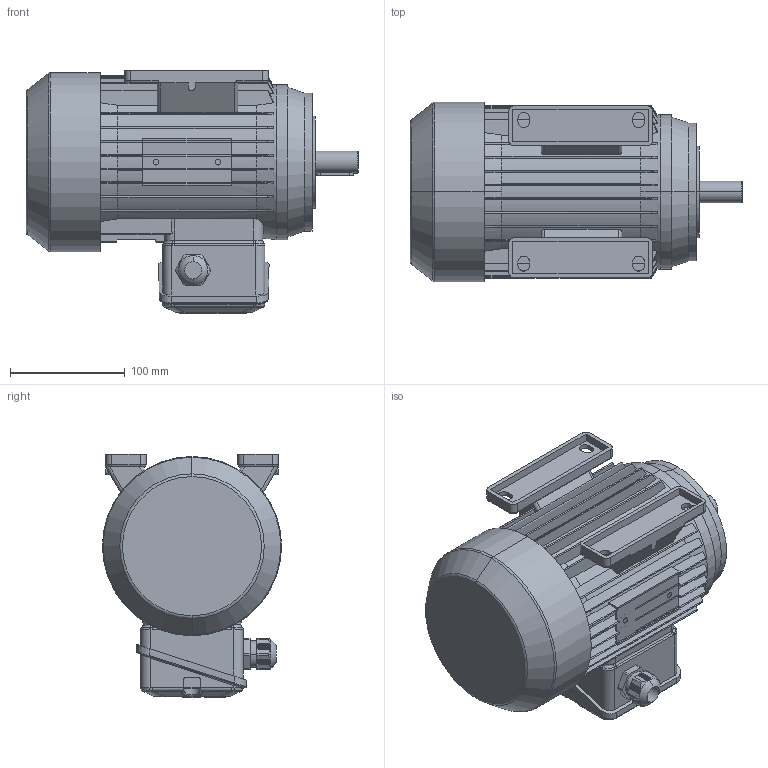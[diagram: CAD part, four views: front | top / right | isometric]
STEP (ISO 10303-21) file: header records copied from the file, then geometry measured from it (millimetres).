
FILE_DESCRIPTION (( 'STEP AP214' ), '1' );
FILE_NAME ('MAP80M2B IM2141-A FT100.STEP', '2020-12-18T10:59:08', ( '' ), ( '' ), 'SwSTEP 2.0', 'SolidWorks 2018', '' );
FILE_SCHEMA (( 'AUTOMOTIVE_DESIGN' ));
Length unit declared in the file: millimetre
Products named in the file (1): MAP80M2B IM2141-A FT100
Bounding box: 289 x 156 x 212 mm (x, y, z)
Volume: 4362711.2 mm3; surface area: 304921.8 mm2
Topology: 2 solids, 8 shells, 1084 faces, 2878 edges, 1851 vertices
Faces by surface type: plane 621, cylinder 266, bspline 100, cone 66, torus 29, sphere 2
Entity records: 39210 total; most frequent: CARTESIAN_POINT 13349, ORIENTED_EDGE 5752, DIRECTION 4868, EDGE_CURVE 2876, VERTEX_POINT 1851, LINE 1678, VECTOR 1678, AXIS2_PLACEMENT_3D 1595
